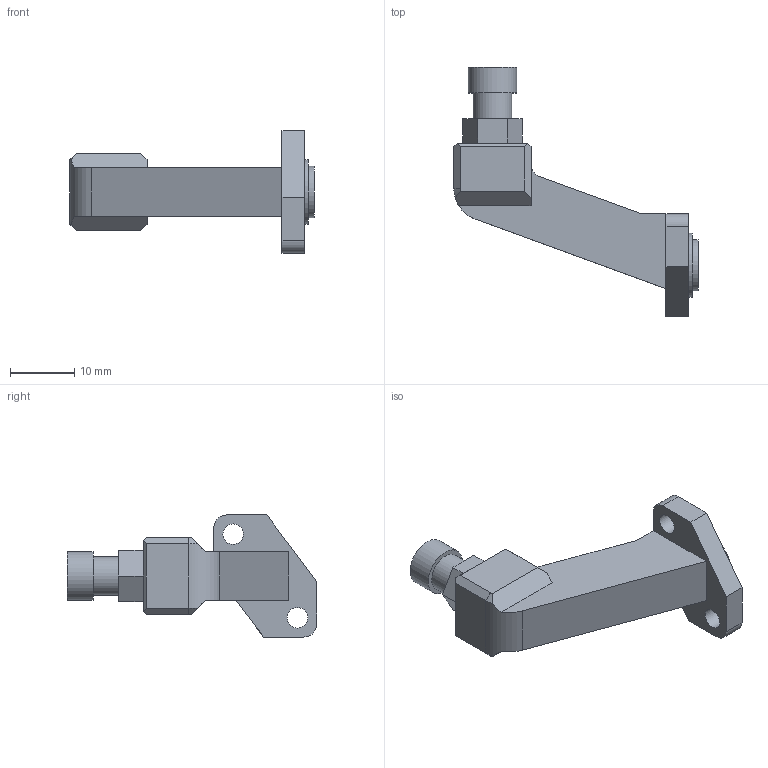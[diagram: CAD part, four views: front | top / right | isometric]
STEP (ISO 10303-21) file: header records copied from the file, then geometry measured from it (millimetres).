
FILE_DESCRIPTION (( 'STEP AP214' ), '1' );
FILE_NAME ('PCPM-SYRINGE3055CC-B.STEP', '2024-10-14T14:48:00', ( '' ), ( '' ), 'SwSTEP 2.0', 'SolidWorks 2024', '' );
FILE_SCHEMA (( 'AUTOMOTIVE_DESIGN' ));
Length unit declared in the file: millimetre
Products named in the file (1): PCPM-SYRINGE3055CC-B
Bounding box: 38 x 38.8 x 19 mm (x, y, z)
Volume: 3288.2 mm3; surface area: 3316.7 mm2
Topology: 1 solids, 1 shells, 59 faces, 146 edges, 95 vertices
Faces by surface type: plane 40, cylinder 14, cone 5
Full cylindrical faces by diameter (mm): 3.2 x2, 4 x1, 5.5 x1, 6 x2, 7.5 x1, 8 x1, 10 x1
Entity records: 1798 total; most frequent: CARTESIAN_POINT 411, DIRECTION 271, ORIENTED_EDGE 270, EDGE_CURVE 135, VERTEX_POINT 93, LINE 91, VECTOR 91, AXIS2_PLACEMENT_3D 90
